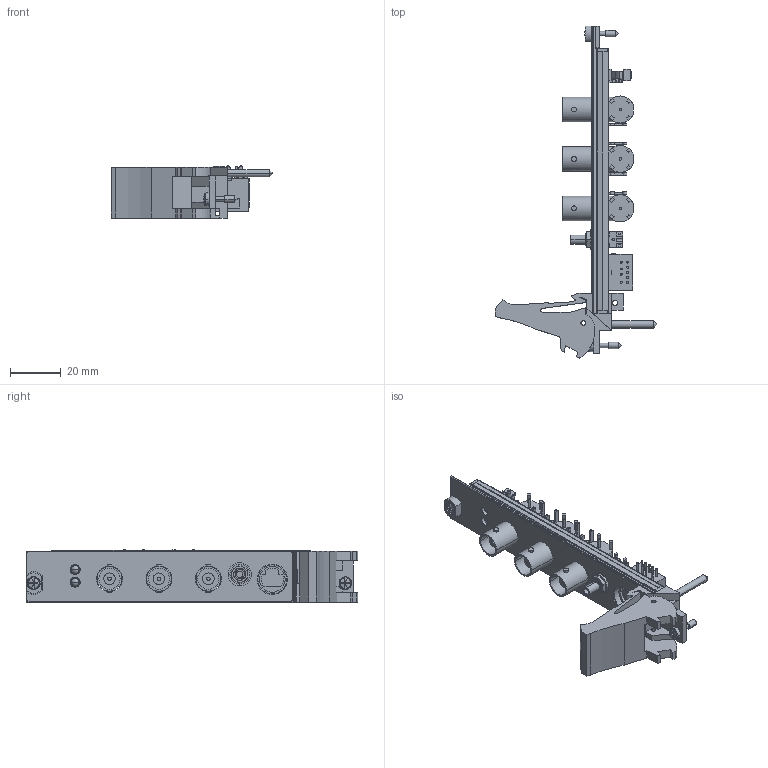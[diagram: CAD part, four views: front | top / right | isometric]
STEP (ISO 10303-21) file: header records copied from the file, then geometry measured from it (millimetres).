
FILE_DESCRIPTION((''),'2;1');
FILE_NAME('CU_PXI-5114','2009-11-13T',('jjorden'),(''),'PRO/ENGINEER BY PARAMETRIC TECHNOLOGY CORPORATION, 2006080','PRO/ENGINEER BY PARAMETRIC TECHNOLOGY CORPORATION, 2006080','');
FILE_SCHEMA(('CONFIG_CONTROL_DESIGN'));
Length unit declared in the file: inch
Products named in the file (1): CU_PXI-5114
Bounding box: 63.53 x 130.51 x 20.52 mm (x, y, z)
Volume: 23242.8 mm3; surface area: 23212 mm2
Topology: 9 solids, 9 shells, 754 faces, 1938 edges, 1256 vertices
Faces by surface type: plane 469, cylinder 245, cone 28, sphere 8, torus 4
Entity records: 24562 total; most frequent: CARTESIAN_POINT 5794, DIRECTION 3921, ORIENTED_EDGE 3860, EDGE_CURVE 1930, AXIS2_PLACEMENT_3D 1322, VECTOR 1277, LINE 1277, VERTEX_POINT 1256
